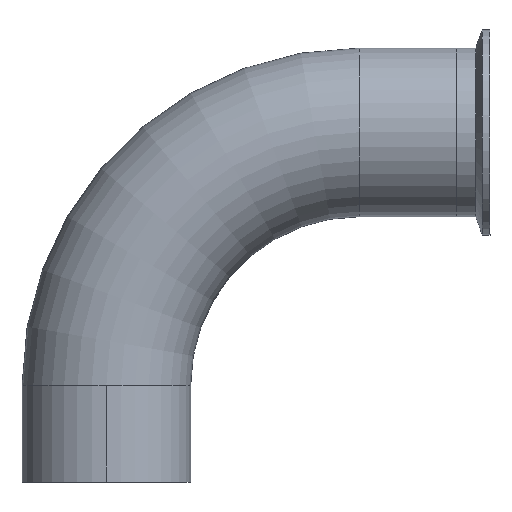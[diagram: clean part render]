
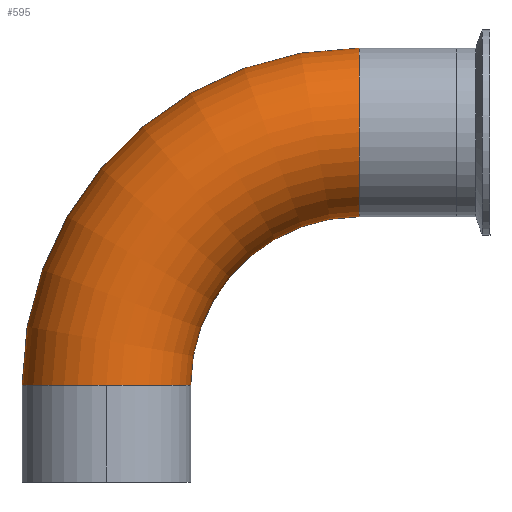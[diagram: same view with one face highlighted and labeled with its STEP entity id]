
A CAD part, top view. The second image highlights one B-rep face of the part: STEP entity #595.
In plain terms, the highlighted toroidal (fillet/blend) face has major radius 95.25 mm and minor radius 31.75 mm.
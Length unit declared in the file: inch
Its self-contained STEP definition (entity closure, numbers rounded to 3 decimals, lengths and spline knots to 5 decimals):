
#3 = VERTEX_POINT ( 'NONE', #431 ) ;
#6 = VERTEX_POINT ( 'NONE', #258 ) ;
#9 = CIRCLE ( 'NONE', #91, 1.25 ) ;
#23 = DIRECTION ( 'NONE',  ( 0., 0., 1. ) ) ;
#39 = AXIS2_PLACEMENT_3D ( 'NONE', #500, #42, #583 ) ;
#42 = DIRECTION ( 'NONE',  ( 0., 0., -1. ) ) ;
#55 = AXIS2_PLACEMENT_3D ( 'NONE', #886, #477, #23 ) ;
#64 = AXIS2_PLACEMENT_3D ( 'NONE', #573, #108, #647 ) ;
#74 = VERTEX_POINT ( 'NONE', #616 ) ;
#86 = CARTESIAN_POINT ( 'NONE',  ( -1.80876, 3.24895, 7.55487 ) ) ;
#91 = AXIS2_PLACEMENT_3D ( 'NONE', #558, #94, #640 ) ;
#94 = DIRECTION ( 'NONE',  ( 0., 1., 0. ) ) ;
#108 = DIRECTION ( 'NONE',  ( 1., 0., 0. ) ) ;
#141 = ORIENTED_EDGE ( 'NONE', *, *, #296, .T. ) ;
#226 = DIRECTION ( 'NONE',  ( 0., 0., -1. ) ) ;
#247 = EDGE_CURVE ( 'NONE', #74, #3, #9, .T. ) ;
#250 = TOROIDAL_SURFACE ( 'NONE', #619, 3.75, 1.25 ) ;
#254 = CIRCLE ( 'NONE', #39, 5. ) ;
#258 = CARTESIAN_POINT ( 'NONE',  ( 3.19124, 8.24895, 7.55487 ) ) ;
#272 = EDGE_CURVE ( 'NONE', #6, #291, #740, .T. ) ;
#277 = CARTESIAN_POINT ( 'NONE',  ( 3.19124, 3.24895, 7.55487 ) ) ;
#291 = VERTEX_POINT ( 'NONE', #491 ) ;
#296 = EDGE_CURVE ( 'NONE', #621, #74, #676, .T. ) ;
#318 = EDGE_CURVE ( 'NONE', #621, #6, #254, .T. ) ;
#332 = ORIENTED_EDGE ( 'NONE', *, *, #247, .T. ) ;
#350 = DIRECTION ( 'NONE',  ( -1., 0., 0. ) ) ;
#403 = EDGE_CURVE ( 'NONE', #3, #291, #686, .T. ) ;
#431 = CARTESIAN_POINT ( 'NONE',  ( 0.69124, 3.24895, 7.55487 ) ) ;
#464 = FACE_OUTER_BOUND ( 'NONE', #537, .T. ) ;
#472 = DIRECTION ( 'NONE',  ( -1., 0., 0. ) ) ;
#477 = DIRECTION ( 'NONE',  ( 0., 1., 0. ) ) ;
#491 = CARTESIAN_POINT ( 'NONE',  ( 3.19124, 5.74895, 7.55487 ) ) ;
#500 = CARTESIAN_POINT ( 'NONE',  ( 3.19124, 3.24895, 7.55487 ) ) ;
#537 = EDGE_LOOP ( 'NONE', ( #538, #141, #332, #561, #915 ) ) ;
#538 = ORIENTED_EDGE ( 'NONE', *, *, #318, .F. ) ;
#558 = CARTESIAN_POINT ( 'NONE',  ( -0.55876, 3.24895, 7.55487 ) ) ;
#561 = ORIENTED_EDGE ( 'NONE', *, *, #403, .T. ) ;
#573 = CARTESIAN_POINT ( 'NONE',  ( 3.19124, 6.99895, 7.55487 ) ) ;
#583 = DIRECTION ( 'NONE',  ( -1., 0., 0. ) ) ;
#595 = ADVANCED_FACE ( 'NONE', ( #464 ), #250, .T. ) ;
#616 = CARTESIAN_POINT ( 'NONE',  ( -0.55876, 3.24895, 8.80487 ) ) ;
#619 = AXIS2_PLACEMENT_3D ( 'NONE', #820, #226, #472 ) ;
#621 = VERTEX_POINT ( 'NONE', #86 ) ;
#629 = AXIS2_PLACEMENT_3D ( 'NONE', #277, #807, #350 ) ;
#640 = DIRECTION ( 'NONE',  ( 0., 0., 1. ) ) ;
#647 = DIRECTION ( 'NONE',  ( 0., 0., 1. ) ) ;
#676 = CIRCLE ( 'NONE', #55, 1.25 ) ;
#686 = CIRCLE ( 'NONE', #629, 2.5 ) ;
#740 = CIRCLE ( 'NONE', #64, 1.25 ) ;
#807 = DIRECTION ( 'NONE',  ( 0., 0., -1. ) ) ;
#820 = CARTESIAN_POINT ( 'NONE',  ( 3.19124, 3.24895, 7.55487 ) ) ;
#886 = CARTESIAN_POINT ( 'NONE',  ( -0.55876, 3.24895, 7.55487 ) ) ;
#915 = ORIENTED_EDGE ( 'NONE', *, *, #272, .F. ) ;
